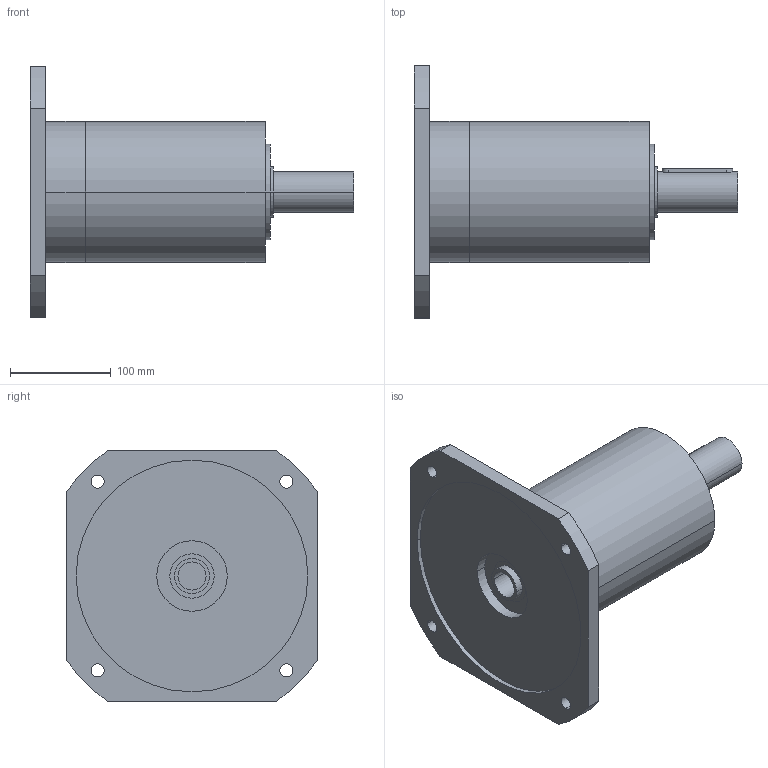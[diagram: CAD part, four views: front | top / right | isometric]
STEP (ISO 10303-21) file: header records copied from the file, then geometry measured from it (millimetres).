
FILE_DESCRIPTION(('CoCreate Modeling STEP Export'),'2;1');
FILE_NAME('GPR150_ig-9-12-16-20-28-35_40_B14_28_P07.stp','2014-08-19T17:03:47',(''),(''),'CoCreate Modeling STEP processor for AP214 (Solid Model)','CoCreate Modeling 16.00C 25-Feb-2009 (C) Parametric Technology GmbH','');
FILE_SCHEMA(('AUTOMOTIVE_DESIGN { 1 0 10303 214 1 1 1 1 }'));
Length unit declared in the file: millimetre
Products named in the file (2): GPR150_ig-9-12-16-20-28-35_40_B14_28_P07
Assembly tree (1 placements, depth 2):
  GPR150_ig-9-12-16-20-28-35_40_B14_28_P07
    GPR150_ig-9-12-16-20-28-35_40_B14_28_P07
Bounding box: 321 x 250 x 250 mm (x, y, z)
Volume: 4102358.4 mm3; surface area: 260889.7 mm2
Topology: 1 solids, 1 shells, 73 faces, 195 edges, 137 vertices
Faces by surface type: cylinder 44, plane 23, cone 6
Entity records: 2033 total; most frequent: CARTESIAN_POINT 395, ORIENTED_EDGE 386, DIRECTION 272, EDGE_CURVE 193, VERTEX_POINT 137, AXIS2_PLACEMENT_3D 102, EDGE_LOOP 96, FACE_OUTER_BOUND 73
